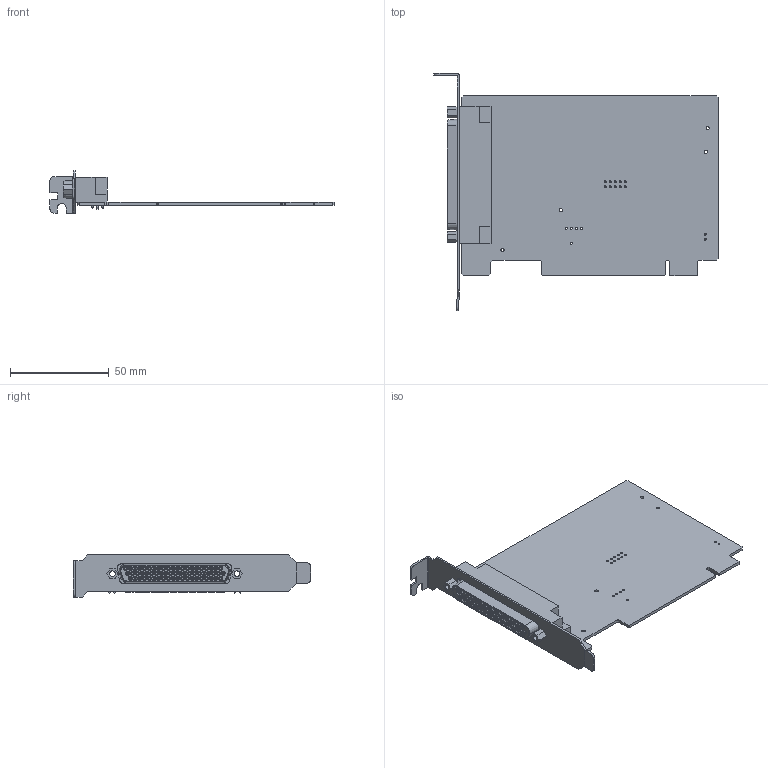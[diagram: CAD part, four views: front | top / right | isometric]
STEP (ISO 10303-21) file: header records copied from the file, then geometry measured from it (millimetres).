
FILE_DESCRIPTION (( 'STEP AP203' ), '1' );
FILE_NAME ('3Dͼֽ MPC3400 V1.0.STEP', '2022-09-30T02:56:15', ( 'Microsoft' ), ( 'Microsoft' ), 'SwSTEP 2.0', 'SolidWorks 2020', '' );
FILE_SCHEMA (( 'CONFIG_CONTROL_DESIGN' ));
Length unit declared in the file: millimetre
Products named in the file (3): MPC3400結啣; 3Dͼֽ MPC3400 V1.0; MPC3400 V1.0
Assembly tree (2 placements, depth 2):
  3Dͼֽ MPC3400 V1.0
    MPC3400 V1.0
    MPC3400結啣
Bounding box: 143.86 x 120.08 x 21.5 mm (x, y, z)
Volume: 1740.6 mm3; surface area: 35638.7 mm2
Topology: 1 solids, 4 shells, 710 faces, 1997 edges, 1321 vertices
Faces by surface type: cylinder 366, plane 133, cone 128, sphere 42, bspline 41
Entity records: 29994 total; most frequent: CARTESIAN_POINT 10593, DIRECTION 4253, ORIENTED_EDGE 3606, EDGE_CURVE 1955, AXIS2_PLACEMENT_3D 1705, VERTEX_POINT 1321, CIRCLE 1030, EDGE_LOOP 1022
